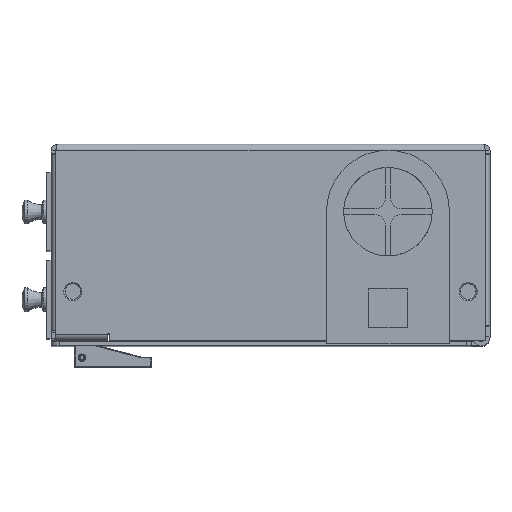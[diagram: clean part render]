
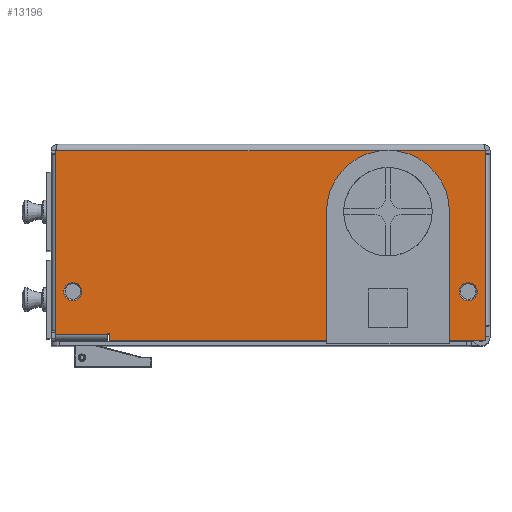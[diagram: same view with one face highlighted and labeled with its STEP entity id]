
A CAD part, top view. The second image highlights one B-rep face of the part: STEP entity #13196.
In plain terms, the highlighted planar face has unit normal (0, 0, 1) as drawn and (-1, 0, 0) by its records, which use the part's own axes.
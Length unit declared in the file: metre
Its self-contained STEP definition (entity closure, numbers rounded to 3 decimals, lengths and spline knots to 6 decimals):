
#1180=CIRCLE('',#15479,0.019368);
#1182=CIRCLE('',#15487,0.000254);
#1183=CIRCLE('',#15489,0.003239);
#1184=CIRCLE('',#15490,0.003239);
#3721=ORIENTED_EDGE('',*,*,#6145,.F.);
#3722=ORIENTED_EDGE('',*,*,#6146,.F.);
#3723=ORIENTED_EDGE('',*,*,#6117,.F.);
#3724=ORIENTED_EDGE('',*,*,#6147,.T.);
#3725=ORIENTED_EDGE('',*,*,#6118,.F.);
#3726=ORIENTED_EDGE('',*,*,#6124,.F.);
#3727=ORIENTED_EDGE('',*,*,#6127,.T.);
#3728=ORIENTED_EDGE('',*,*,#6148,.T.);
#3729=ORIENTED_EDGE('',*,*,#6128,.F.);
#3730=ORIENTED_EDGE('',*,*,#6134,.T.);
#3731=ORIENTED_EDGE('',*,*,#6149,.T.);
#3732=ORIENTED_EDGE('',*,*,#6138,.T.);
#3733=ORIENTED_EDGE('',*,*,#6150,.F.);
#3734=ORIENTED_EDGE('',*,*,#6142,.F.);
#3735=ORIENTED_EDGE('',*,*,#6144,.T.);
#3736=ORIENTED_EDGE('',*,*,#6114,.T.);
#6114=EDGE_CURVE('',#7528,#7530,#8688,.T.);
#6117=EDGE_CURVE('',#7532,#7530,#8691,.T.);
#6118=EDGE_CURVE('',#7533,#7534,#8692,.T.);
#6124=EDGE_CURVE('',#7538,#7533,#1180,.F.);
#6127=EDGE_CURVE('',#7538,#7540,#8699,.T.);
#6128=EDGE_CURVE('',#7541,#7542,#8700,.T.);
#6134=EDGE_CURVE('',#7541,#7546,#8705,.F.);
#6138=EDGE_CURVE('',#7548,#7550,#8708,.F.);
#6142=EDGE_CURVE('',#7554,#7552,#8712,.T.);
#6144=EDGE_CURVE('',#7554,#7528,#1182,.T.);
#6145=EDGE_CURVE('',#7555,#7555,#1183,.T.);
#6146=EDGE_CURVE('',#7556,#7556,#1184,.T.);
#6147=EDGE_CURVE('',#7532,#7534,#8713,.F.);
#6148=EDGE_CURVE('',#7540,#7542,#8714,.T.);
#6149=EDGE_CURVE('',#7546,#7548,#8715,.F.);
#6150=EDGE_CURVE('',#7552,#7550,#8716,.T.);
#7528=VERTEX_POINT('',#22712);
#7530=VERTEX_POINT('',#22716);
#7532=VERTEX_POINT('',#22722);
#7533=VERTEX_POINT('',#22726);
#7534=VERTEX_POINT('',#22727);
#7538=VERTEX_POINT('',#22737);
#7540=VERTEX_POINT('',#22743);
#7541=VERTEX_POINT('',#22747);
#7542=VERTEX_POINT('',#22748);
#7546=VERTEX_POINT('',#22761);
#7548=VERTEX_POINT('',#22769);
#7550=VERTEX_POINT('',#22773);
#7552=VERTEX_POINT('',#22778);
#7554=VERTEX_POINT('',#22782);
#7555=VERTEX_POINT('',#22789);
#7556=VERTEX_POINT('',#22791);
#8688=LINE('',#22717,#9895);
#8691=LINE('',#22723,#9898);
#8692=LINE('',#22725,#9899);
#8699=LINE('',#22744,#9906);
#8700=LINE('',#22746,#9907);
#8705=LINE('',#22762,#9912);
#8708=LINE('',#22774,#9915);
#8712=LINE('',#22783,#9919);
#8713=LINE('',#22792,#9920);
#8714=LINE('',#22793,#9921);
#8715=LINE('',#22794,#9922);
#8716=LINE('',#22795,#9923);
#9895=VECTOR('',#18364,1.);
#9898=VECTOR('',#18369,1.);
#9899=VECTOR('',#18372,1.);
#9906=VECTOR('',#18387,1.);
#9907=VECTOR('',#18390,1.);
#9912=VECTOR('',#18397,1.);
#9915=VECTOR('',#18402,1.);
#9919=VECTOR('',#18408,1.);
#9920=VECTOR('',#18421,1.);
#9921=VECTOR('',#18422,1.);
#9922=VECTOR('',#18423,1.);
#9923=VECTOR('',#18424,1.);
#10968=EDGE_LOOP('',(#3721));
#10969=EDGE_LOOP('',(#3722));
#10970=EDGE_LOOP('',(#3723,#3724,#3725,#3726,#3727,#3728,#3729,#3730,#3731,
#3732,#3733,#3734,#3735,#3736));
#11930=FACE_BOUND('',#10968,.T.);
#11931=FACE_BOUND('',#10969,.T.);
#11932=FACE_BOUND('',#10970,.T.);
#12543=PLANE('',#15488);
#13196=ADVANCED_FACE('',(#11930,#11931,#11932),#12543,.F.);
#15479=AXIS2_PLACEMENT_3D('',#22738,#18381,#18382);
#15487=AXIS2_PLACEMENT_3D('',#22786,#18413,#18414);
#15488=AXIS2_PLACEMENT_3D('',#22787,#18415,#18416);
#15489=AXIS2_PLACEMENT_3D('',#22788,#18417,#18418);
#15490=AXIS2_PLACEMENT_3D('',#22790,#18419,#18420);
#18364=DIRECTION('',(0.,0.,1.));
#18369=DIRECTION('',(0.,-1.,0.));
#18372=DIRECTION('',(0.,0.,1.));
#18381=DIRECTION('',(1.,0.,0.));
#18382=DIRECTION('',(0.,0.,-1.));
#18387=DIRECTION('',(0.,0.,1.));
#18390=DIRECTION('',(0.,-1.,0.));
#18397=DIRECTION('',(0.,0.,1.));
#18402=DIRECTION('',(0.,0.,-1.));
#18408=DIRECTION('',(0.,0.,1.));
#18413=DIRECTION('',(1.,0.,0.));
#18414=DIRECTION('',(0.,0.,-1.));
#18415=DIRECTION('',(1.,0.,0.));
#18416=DIRECTION('',(0.,1.,0.));
#18417=DIRECTION('',(-1.,0.,0.));
#18418=DIRECTION('',(0.,0.,1.));
#18419=DIRECTION('',(-1.,0.,0.));
#18420=DIRECTION('',(0.,0.,1.));
#18421=DIRECTION('',(0.,-0.707,0.707));
#18422=DIRECTION('',(0.,0.707,0.707));
#18423=DIRECTION('',(0.,1.,0.));
#18424=DIRECTION('',(0.,-1.,0.));
#22712=CARTESIAN_POINT('',(-0.0889,-0.058293,-0.00254));
#22716=CARTESIAN_POINT('',(-0.0889,-0.058293,0.));
#22717=CARTESIAN_POINT('',(-0.0889,-0.058293,-0.00127));
#22722=CARTESIAN_POINT('',(-0.0889,0.021844,0.));
#22723=CARTESIAN_POINT('',(-0.0889,0.,0.));
#22725=CARTESIAN_POINT('',(-0.0889,0.023114,-0.023336));
#22726=CARTESIAN_POINT('',(-0.0889,0.023114,-0.046673));
#22727=CARTESIAN_POINT('',(-0.0889,0.023114,-0.00127));
#22737=CARTESIAN_POINT('',(-0.0889,0.061849,-0.046673));
#22738=CARTESIAN_POINT('',(-0.0889,0.042482,-0.046673));
#22743=CARTESIAN_POINT('',(-0.0889,0.061849,-0.00127));
#22744=CARTESIAN_POINT('',(-0.0889,0.061849,-0.023336));
#22746=CARTESIAN_POINT('',(-0.0889,0.,0.));
#22747=CARTESIAN_POINT('',(-0.0889,0.077648,0.));
#22748=CARTESIAN_POINT('',(-0.0889,0.063119,0.));
#22761=CARTESIAN_POINT('',(-0.0889,0.077648,-0.068726));
#22762=CARTESIAN_POINT('',(-0.0889,0.077648,-0.00254));
#22769=CARTESIAN_POINT('',(-0.0889,-0.077648,-0.068726));
#22773=CARTESIAN_POINT('',(-0.0889,-0.077648,-0.002394));
#22774=CARTESIAN_POINT('',(-0.0889,-0.077648,-0.03556));
#22778=CARTESIAN_POINT('',(-0.0889,-0.058801,-0.002394));
#22782=CARTESIAN_POINT('',(-0.0889,-0.058801,-0.00254));
#22783=CARTESIAN_POINT('',(-0.0889,-0.058801,-0.00127));
#22786=CARTESIAN_POINT('',(-0.0889,-0.058547,-0.00254));
#22787=CARTESIAN_POINT('',(-0.0889,0.,-0.034671));
#22788=CARTESIAN_POINT('',(-0.0889,0.071501,-0.01778));
#22789=CARTESIAN_POINT('',(-0.0889,0.071501,-0.014542));
#22790=CARTESIAN_POINT('',(-0.0889,-0.071501,-0.01778));
#22791=CARTESIAN_POINT('',(-0.0889,-0.071501,-0.014542));
#22792=CARTESIAN_POINT('',(-0.0889,0.021844,0.));
#22793=CARTESIAN_POINT('',(-0.0889,0.061849,-0.00127));
#22794=CARTESIAN_POINT('',(-0.0889,0.,-0.068726));
#22795=CARTESIAN_POINT('',(-0.0889,0.,-0.002394));
